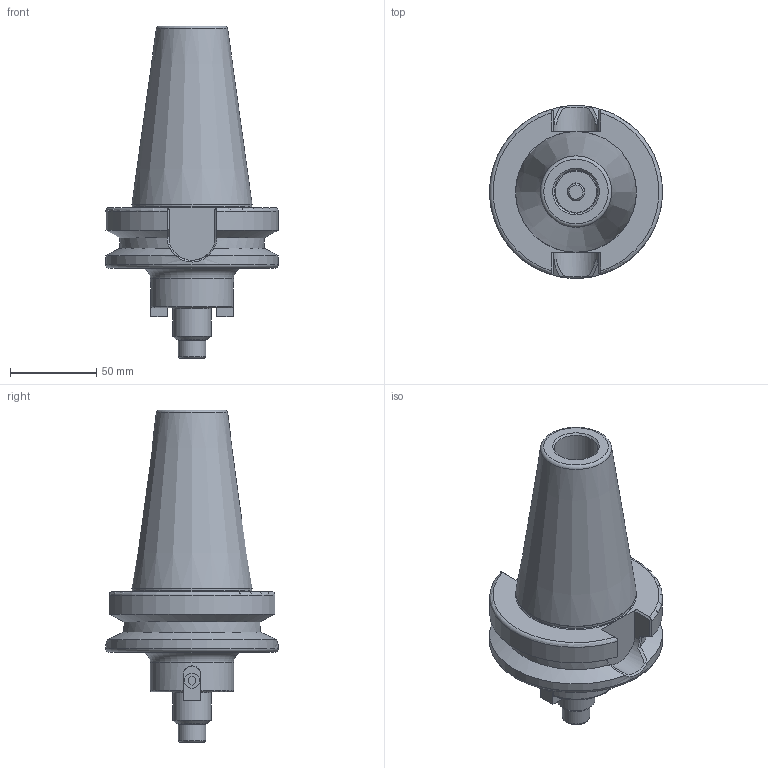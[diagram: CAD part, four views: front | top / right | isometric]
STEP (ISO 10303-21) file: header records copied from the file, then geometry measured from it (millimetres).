
FILE_DESCRIPTION(/* description */ (''),/* implementation_level */ '2;1');
FILE_NAME(/* name */ 'Z:\Проектный отдел\Алена\Оправка фрезерная (патрон) BT50-FMB22-60\BT50-FMB22-60.stp',/* time_stamp */ '2024-01-26T13:09:05+03:00',/* author */ ('User'),/* organization */ (''),/* preprocessor_version */ 'ST-DEVELOPER v18',/* originating_system */ 'Autodesk Inventor 2020',/* authorisation */ '');
FILE_SCHEMA (('AUTOMOTIVE_DESIGN { 1 0 10303 214 3 1 1 }'));
Length unit declared in the file: millimetre
Products named in the file (3): BT50-FMB22-60; BT50-FMB22-60_1; ANSI B18.3.1M - M10x1,5 x 40, BSHCSM
Assembly tree (2 placements, depth 2):
  BT50-FMB22-60
    BT50-FMB22-60_1
    ANSI B18.3.1M - M10x1,5 x 40, BSHCSM
Bounding box: 100 x 100 x 192 mm (x, y, z)
Volume: 488680 mm3; surface area: 63688.1 mm2
Topology: 2 solids, 2 shells, 124 faces, 348 edges, 238 vertices
Faces by surface type: plane 68, cylinder 21, bspline 14, torus 11, cone 10
Full cylindrical faces by diameter (mm): 8.8 x2, 10 x1, 10.4 x1, 16 x1, 22 x1, 24 x1, 25 x1, 48.3 x1, 69 x1, 100 x1
Entity records: 4761 total; most frequent: CARTESIAN_POINT 1511, ORIENTED_EDGE 694, DIRECTION 581, EDGE_CURVE 347, VERTEX_POINT 238, AXIS2_PLACEMENT_3D 213, LINE 155, VECTOR 155
